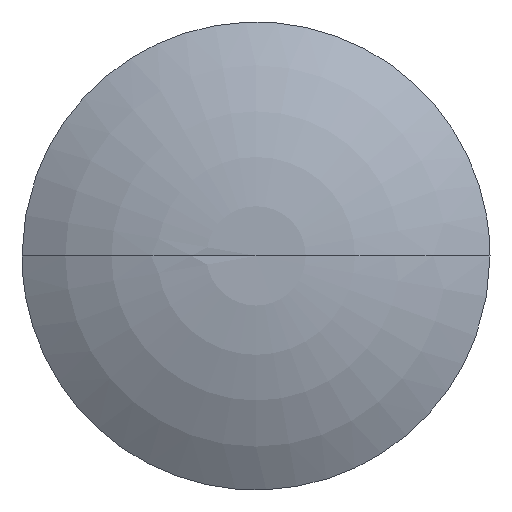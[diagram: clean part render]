
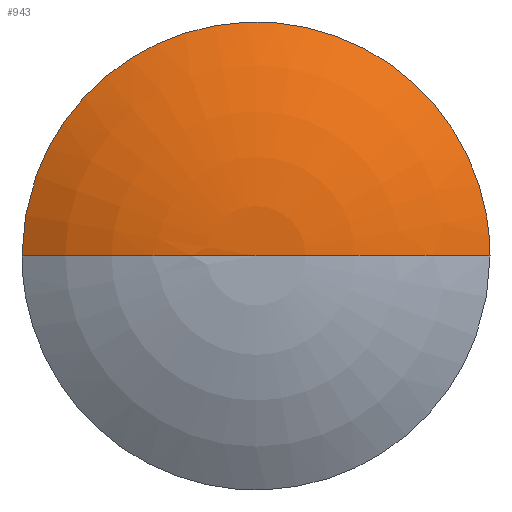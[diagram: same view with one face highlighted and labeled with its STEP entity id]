
A CAD part, top view. The second image highlights one B-rep face of the part: STEP entity #943.
In plain terms, the highlighted toroidal (fillet/blend) face has major radius 0.5 mm and minor radius 7.627 mm.
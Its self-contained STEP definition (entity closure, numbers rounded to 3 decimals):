
#1 = CARTESIAN_POINT ( 'NONE',  ( 4.655, 0., 0. ) ) ;
#15 = CARTESIAN_POINT ( 'NONE',  ( 0., 0., 1.214 ) ) ;
#63 = CARTESIAN_POINT ( 'NONE',  ( 4.534, 1.217, 0. ) ) ;
#77 = CARTESIAN_POINT ( 'NONE',  ( 4.655, 0.612, 0. ) ) ;
#79 = CARTESIAN_POINT ( 'NONE',  ( -0.814, 0., 1.268 ) ) ;
#147 = CARTESIAN_POINT ( 'NONE',  ( 4.067, 2.345, 0. ) ) ;
#212 = CARTESIAN_POINT ( 'NONE',  ( 0.814, 0., 1.268 ) ) ;
#239 = CARTESIAN_POINT ( 'NONE',  ( 0., 0., 1.214 ) ) ;
#250 = DIRECTION ( 'NONE',  ( 0., 0., 1. ) ) ;
#260 = ORIENTED_EDGE ( 'NONE', *, *, #820, .F. ) ;
#262 = EDGE_CURVE ( 'NONE', #814, #302, #301, .T. ) ;
#290 = CARTESIAN_POINT ( 'NONE',  ( 3.215, 0., 0.778 ) ) ;
#300 = AXIS2_PLACEMENT_3D ( 'NONE', #926, #250, #877 ) ;
#301 = B_SPLINE_CURVE_WITH_KNOTS ( 'NONE', 3,
 ( #239, #79, #901, #536, #326, #382 ),
 .UNSPECIFIED., .F., .F.,
 ( 4, 2, 4 ),
 ( 0., 0.5, 1. ),
 .UNSPECIFIED. ) ;
#302 = VERTEX_POINT ( 'NONE', #832 ) ;
#309 = CARTESIAN_POINT ( 'NONE',  ( 0., 0., 1.214 ) ) ;
#326 = CARTESIAN_POINT ( 'NONE',  ( -3.971, 0., 0.444 ) ) ;
#372 = CARTESIAN_POINT ( 'NONE',  ( -4.534, 1.217, 0. ) ) ;
#380 = CARTESIAN_POINT ( 'NONE',  ( 4.655, 0., 0. ) ) ;
#382 = CARTESIAN_POINT ( 'NONE',  ( -4.655, 0., 0. ) ) ;
#417 = ORIENTED_EDGE ( 'NONE', *, *, #262, .F. ) ;
#436 = CARTESIAN_POINT ( 'NONE',  ( -4.655, 0.611, 0. ) ) ;
#448 = B_SPLINE_CURVE_WITH_KNOTS ( 'NONE', 3,
 ( #666, #451, #290, #513, #212, #15 ),
 .UNSPECIFIED., .F., .F.,
 ( 4, 2, 4 ),
 ( 0., 0.5, 1. ),
 .UNSPECIFIED. ) ;
#450 = CARTESIAN_POINT ( 'NONE',  ( 2.345, 4.067, 0. ) ) ;
#451 = CARTESIAN_POINT ( 'NONE',  ( 3.971, 0., 0.444 ) ) ;
#455 = VERTEX_POINT ( 'NONE', #1 ) ;
#511 = ORIENTED_EDGE ( 'NONE', *, *, #577, .F. ) ;
#513 = CARTESIAN_POINT ( 'NONE',  ( 1.636, 0., 1.19 ) ) ;
#521 = CARTESIAN_POINT ( 'NONE',  ( -2.345, 4.067, 0. ) ) ;
#524 = CARTESIAN_POINT ( 'NONE',  ( -2.86, 3.723, 0. ) ) ;
#536 = CARTESIAN_POINT ( 'NONE',  ( -3.215, 0., 0.778 ) ) ;
#540 = FACE_OUTER_BOUND ( 'NONE', #867, .T. ) ;
#577 = EDGE_CURVE ( 'NONE', #455, #814, #448, .T. ) ;
#607 = CARTESIAN_POINT ( 'NONE',  ( -1.217, 4.534, 0. ) ) ;
#666 = CARTESIAN_POINT ( 'NONE',  ( 4.655, 0., 0. ) ) ;
#672 = CARTESIAN_POINT ( 'NONE',  ( -0.611, 4.655, 0. ) ) ;
#676 = TOROIDAL_SURFACE ( 'NONE', #300, 0.5, 7.627 ) ;
#738 = CARTESIAN_POINT ( 'NONE',  ( 3.723, 2.86, 0. ) ) ;
#748 = CARTESIAN_POINT ( 'NONE',  ( -3.723, 2.86, 0. ) ) ;
#755 = B_SPLINE_CURVE_WITH_KNOTS ( 'NONE', 3,
 ( #888, #436, #372, #967, #748, #524, #521, #607, #672, #970, #821, #450, #896, #738, #147, #63, #77, #380 ),
 .UNSPECIFIED., .F., .F.,
 ( 4, 2, 2, 2, 2, 2, 2, 2, 4 ),
 ( 0., 0.125, 0.25, 0.375, 0.5, 0.625, 0.75, 0.875, 1. ),
 .UNSPECIFIED. ) ;
#814 = VERTEX_POINT ( 'NONE', #309 ) ;
#820 = EDGE_CURVE ( 'NONE', #302, #455, #755, .T. ) ;
#821 = CARTESIAN_POINT ( 'NONE',  ( 1.217, 4.534, 0. ) ) ;
#832 = CARTESIAN_POINT ( 'NONE',  ( -4.655, 0., 0. ) ) ;
#867 = EDGE_LOOP ( 'NONE', ( #511, #260, #417 ) ) ;
#877 = DIRECTION ( 'NONE',  ( 1., 0., 0. ) ) ;
#888 = CARTESIAN_POINT ( 'NONE',  ( -4.655, 0., 0. ) ) ;
#896 = CARTESIAN_POINT ( 'NONE',  ( 2.86, 3.723, 0. ) ) ;
#901 = CARTESIAN_POINT ( 'NONE',  ( -1.636, 0., 1.19 ) ) ;
#926 = CARTESIAN_POINT ( 'NONE',  ( 0., 0., -6.396 ) ) ;
#943 = ADVANCED_FACE ( 'NONE', ( #540 ), #676, .T. ) ;
#967 = CARTESIAN_POINT ( 'NONE',  ( -4.067, 2.345, 0. ) ) ;
#970 = CARTESIAN_POINT ( 'NONE',  ( 0.611, 4.655, 0. ) ) ;
